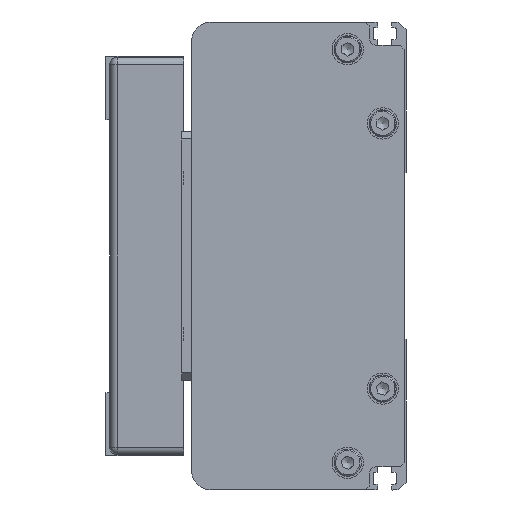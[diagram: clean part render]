
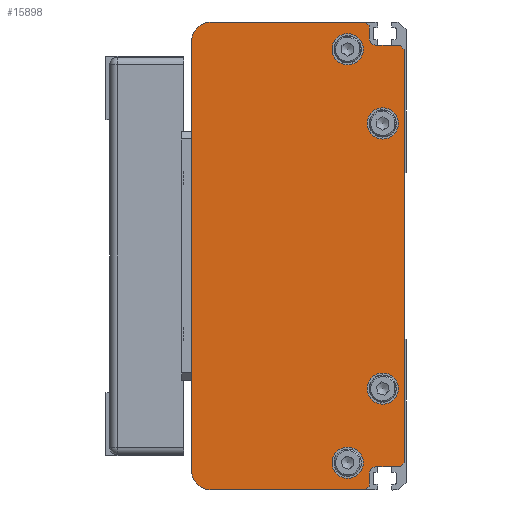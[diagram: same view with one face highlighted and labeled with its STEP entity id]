
A CAD part, left-side view. The second image highlights one B-rep face of the part: STEP entity #15898.
In plain terms, the highlighted planar face has unit normal (-1, 0, 0) as drawn and (0, 0, -1) by its records, which use the part's own axes.
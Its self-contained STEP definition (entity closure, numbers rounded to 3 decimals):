
#834=FACE_BOUND('',#2629,.T.);
#835=FACE_BOUND('',#2630,.T.);
#836=FACE_BOUND('',#2631,.T.);
#837=FACE_BOUND('',#2632,.T.);
#1156=CIRCLE('',#17038,5.);
#1157=CIRCLE('',#17040,5.);
#1158=CIRCLE('',#17041,2.);
#1159=CIRCLE('',#17042,2.);
#1160=CIRCLE('',#17043,4.);
#1161=CIRCLE('',#17044,4.);
#1162=CIRCLE('',#17045,4.);
#1163=CIRCLE('',#17046,4.);
#1592=FACE_OUTER_BOUND('',#2628,.T.);
#2628=EDGE_LOOP('',(#10954,#10955,#10956,#10957,#10958,#10959,#10960,#10961,
#10962,#10963,#10964,#10965,#10966,#10967,#10968,#10969));
#2629=EDGE_LOOP('',(#10970));
#2630=EDGE_LOOP('',(#10971));
#2631=EDGE_LOOP('',(#10972));
#2632=EDGE_LOOP('',(#10973));
#3873=LINE('',#22759,#5400);
#3874=LINE('',#22761,#5401);
#3875=LINE('',#22764,#5402);
#3876=LINE('',#22766,#5403);
#3877=LINE('',#22768,#5404);
#3878=LINE('',#22770,#5405);
#3879=LINE('',#22774,#5406);
#3880=LINE('',#22776,#5407);
#3881=LINE('',#22778,#5408);
#3882=LINE('',#22780,#5409);
#3883=LINE('',#22782,#5410);
#3884=LINE('',#22785,#5411);
#5400=VECTOR('',#18582,1.414);
#5401=VECTOR('',#18583,39.5);
#5402=VECTOR('',#18586,110.);
#5403=VECTOR('',#18587,39.5);
#5404=VECTOR('',#18588,1.414);
#5405=VECTOR('',#18589,3.);
#5406=VECTOR('',#18592,6.);
#5407=VECTOR('',#18593,1.414);
#5408=VECTOR('',#18594,106.);
#5409=VECTOR('',#18595,1.414);
#5410=VECTOR('',#18596,6.);
#5411=VECTOR('',#18599,3.);
#6965=VERTEX_POINT('',#22751);
#6966=VERTEX_POINT('',#22753);
#6967=VERTEX_POINT('',#22757);
#6968=VERTEX_POINT('',#22758);
#6969=VERTEX_POINT('',#22760);
#6970=VERTEX_POINT('',#22762);
#6971=VERTEX_POINT('',#22765);
#6972=VERTEX_POINT('',#22767);
#6973=VERTEX_POINT('',#22769);
#6974=VERTEX_POINT('',#22771);
#6975=VERTEX_POINT('',#22773);
#6976=VERTEX_POINT('',#22775);
#6977=VERTEX_POINT('',#22777);
#6978=VERTEX_POINT('',#22779);
#6979=VERTEX_POINT('',#22781);
#6980=VERTEX_POINT('',#22783);
#6981=VERTEX_POINT('',#22786);
#6982=VERTEX_POINT('',#22788);
#6983=VERTEX_POINT('',#22790);
#6984=VERTEX_POINT('',#22792);
#8557=EDGE_CURVE('',#6965,#6966,#1156,.T.);
#8559=EDGE_CURVE('',#6967,#6968,#3873,.T.);
#8560=EDGE_CURVE('',#6967,#6969,#3874,.T.);
#8561=EDGE_CURVE('',#6970,#6969,#1157,.T.);
#8562=EDGE_CURVE('',#6970,#6966,#3875,.T.);
#8563=EDGE_CURVE('',#6965,#6971,#3876,.T.);
#8564=EDGE_CURVE('',#6972,#6971,#3877,.T.);
#8565=EDGE_CURVE('',#6972,#6973,#3878,.T.);
#8566=EDGE_CURVE('',#6973,#6974,#1158,.T.);
#8567=EDGE_CURVE('',#6974,#6975,#3879,.T.);
#8568=EDGE_CURVE('',#6976,#6975,#3880,.T.);
#8569=EDGE_CURVE('',#6976,#6977,#3881,.T.);
#8570=EDGE_CURVE('',#6978,#6977,#3882,.T.);
#8571=EDGE_CURVE('',#6978,#6979,#3883,.T.);
#8572=EDGE_CURVE('',#6979,#6980,#1159,.T.);
#8573=EDGE_CURVE('',#6980,#6968,#3884,.T.);
#8574=EDGE_CURVE('',#6981,#6981,#1160,.T.);
#8575=EDGE_CURVE('',#6982,#6982,#1161,.T.);
#8576=EDGE_CURVE('',#6983,#6983,#1162,.T.);
#8577=EDGE_CURVE('',#6984,#6984,#1163,.T.);
#10954=ORIENTED_EDGE('',*,*,#8559,.F.);
#10955=ORIENTED_EDGE('',*,*,#8560,.T.);
#10956=ORIENTED_EDGE('',*,*,#8561,.F.);
#10957=ORIENTED_EDGE('',*,*,#8562,.T.);
#10958=ORIENTED_EDGE('',*,*,#8557,.F.);
#10959=ORIENTED_EDGE('',*,*,#8563,.T.);
#10960=ORIENTED_EDGE('',*,*,#8564,.F.);
#10961=ORIENTED_EDGE('',*,*,#8565,.T.);
#10962=ORIENTED_EDGE('',*,*,#8566,.T.);
#10963=ORIENTED_EDGE('',*,*,#8567,.T.);
#10964=ORIENTED_EDGE('',*,*,#8568,.F.);
#10965=ORIENTED_EDGE('',*,*,#8569,.T.);
#10966=ORIENTED_EDGE('',*,*,#8570,.F.);
#10967=ORIENTED_EDGE('',*,*,#8571,.T.);
#10968=ORIENTED_EDGE('',*,*,#8572,.T.);
#10969=ORIENTED_EDGE('',*,*,#8573,.T.);
#10970=ORIENTED_EDGE('',*,*,#8574,.T.);
#10971=ORIENTED_EDGE('',*,*,#8575,.T.);
#10972=ORIENTED_EDGE('',*,*,#8576,.T.);
#10973=ORIENTED_EDGE('',*,*,#8577,.T.);
#15270=PLANE('',#17039);
#15898=ADVANCED_FACE('',(#1592,#834,#835,#836,#837),#15270,.F.);
#17038=AXIS2_PLACEMENT_3D('',#22754,#18577,#18578);
#17039=AXIS2_PLACEMENT_3D('',#22756,#18580,#18581);
#17040=AXIS2_PLACEMENT_3D('',#22763,#18584,#18585);
#17041=AXIS2_PLACEMENT_3D('',#22772,#18590,#18591);
#17042=AXIS2_PLACEMENT_3D('',#22784,#18597,#18598);
#17043=AXIS2_PLACEMENT_3D('',#22787,#18600,#18601);
#17044=AXIS2_PLACEMENT_3D('',#22789,#18602,#18603);
#17045=AXIS2_PLACEMENT_3D('',#22791,#18604,#18605);
#17046=AXIS2_PLACEMENT_3D('',#22793,#18606,#18607);
#18577=DIRECTION('center_axis',(0.,0.,
1.));
#18578=DIRECTION('ref_axis',(0.707,0.707,0.));
#18580=DIRECTION('center_axis',(0.,0.,
1.));
#18581=DIRECTION('ref_axis',(-1.,-0.018,0.));
#18582=DIRECTION('',(0.707,-0.707,0.));
#18583=DIRECTION('',(0.,1.,0.));
#18584=DIRECTION('center_axis',(0.,0.,
1.));
#18585=DIRECTION('ref_axis',(-0.707,0.707,0.));
#18586=DIRECTION('',(1.,0.,0.));
#18587=DIRECTION('',(0.,-1.,0.));
#18588=DIRECTION('',(0.707,0.707,0.));
#18589=DIRECTION('',(-1.,0.,0.));
#18590=DIRECTION('center_axis',(0.,0.,
1.));
#18591=DIRECTION('ref_axis',(0.,-1.,0.));
#18592=DIRECTION('',(0.,-1.,0.));
#18593=DIRECTION('',(0.707,0.707,0.));
#18594=DIRECTION('',(-1.,0.,0.));
#18595=DIRECTION('',(0.707,-0.707,0.));
#18596=DIRECTION('',(0.,1.,0.));
#18597=DIRECTION('center_axis',(0.,0.,
1.));
#18598=DIRECTION('ref_axis',(1.,0.,0.));
#18599=DIRECTION('',(-1.,0.,0.));
#18600=DIRECTION('center_axis',(0.,0.,
1.));
#18601=DIRECTION('ref_axis',(0.,1.,0.));
#18602=DIRECTION('center_axis',(0.,0.,
1.));
#18603=DIRECTION('ref_axis',(0.,1.,0.));
#18604=DIRECTION('center_axis',(0.,0.,
1.));
#18605=DIRECTION('ref_axis',(0.,1.,0.));
#18606=DIRECTION('center_axis',(0.,0.,
1.));
#18607=DIRECTION('ref_axis',(0.,1.,0.));
#22751=CARTESIAN_POINT('',(124.75,50.75,-942.5));
#22753=CARTESIAN_POINT('',(119.75,55.75,-942.5));
#22754=CARTESIAN_POINT('Origin',(119.75,50.75,-942.5));
#22756=CARTESIAN_POINT('Origin',(64.75,28.5,-942.5));
#22757=CARTESIAN_POINT('',(4.75,11.25,-942.5));
#22758=CARTESIAN_POINT('',(5.75,10.25,-942.5));
#22759=CARTESIAN_POINT('',(4.75,11.25,-942.5));
#22760=CARTESIAN_POINT('',(4.75,50.75,-942.5));
#22761=CARTESIAN_POINT('',(4.75,11.25,-942.5));
#22762=CARTESIAN_POINT('',(9.75,55.75,-942.5));
#22763=CARTESIAN_POINT('Origin',(9.75,50.75,-942.5));
#22764=CARTESIAN_POINT('',(9.75,55.75,-942.5));
#22765=CARTESIAN_POINT('',(124.75,11.25,-942.5));
#22766=CARTESIAN_POINT('',(124.75,50.75,-942.5));
#22767=CARTESIAN_POINT('',(123.75,10.25,-942.5));
#22768=CARTESIAN_POINT('',(123.75,10.25,-942.5));
#22769=CARTESIAN_POINT('',(120.75,10.25,-942.5));
#22770=CARTESIAN_POINT('',(123.75,10.25,-942.5));
#22771=CARTESIAN_POINT('',(118.75,8.25,-942.5));
#22772=CARTESIAN_POINT('Origin',(120.75,8.25,-942.5));
#22773=CARTESIAN_POINT('',(118.75,2.25,-942.5));
#22774=CARTESIAN_POINT('',(118.75,8.25,-942.5));
#22775=CARTESIAN_POINT('',(117.75,1.25,-942.5));
#22776=CARTESIAN_POINT('',(117.75,1.25,-942.5));
#22777=CARTESIAN_POINT('',(11.75,1.25,-942.5));
#22778=CARTESIAN_POINT('',(117.75,1.25,-942.5));
#22779=CARTESIAN_POINT('',(10.75,2.25,-942.5));
#22780=CARTESIAN_POINT('',(10.75,2.25,-942.5));
#22781=CARTESIAN_POINT('',(10.75,8.25,-942.5));
#22782=CARTESIAN_POINT('',(10.75,2.25,-942.5));
#22783=CARTESIAN_POINT('',(8.75,10.25,-942.5));
#22784=CARTESIAN_POINT('Origin',(8.75,8.25,-942.5));
#22785=CARTESIAN_POINT('',(8.75,10.25,-942.5));
#22786=CARTESIAN_POINT('',(30.75,10.75,-942.5));
#22787=CARTESIAN_POINT('Origin',(30.75,6.75,-942.5));
#22788=CARTESIAN_POINT('',(98.75,10.75,-942.5));
#22789=CARTESIAN_POINT('Origin',(98.75,6.75,-942.5));
#22790=CARTESIAN_POINT('',(11.75,19.75,-942.5));
#22791=CARTESIAN_POINT('Origin',(11.75,15.75,-942.5));
#22792=CARTESIAN_POINT('',(117.75,19.75,-942.5));
#22793=CARTESIAN_POINT('Origin',(117.75,15.75,-942.5));
